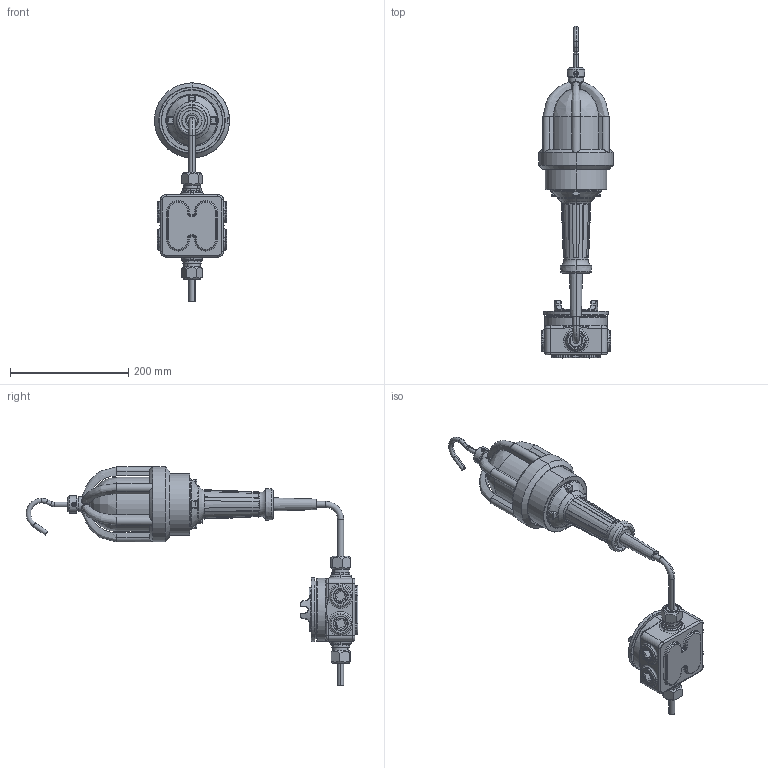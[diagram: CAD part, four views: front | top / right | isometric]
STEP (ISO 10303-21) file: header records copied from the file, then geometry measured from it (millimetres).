
FILE_DESCRIPTION (( 'STEP AP214' ), '1' );
FILE_NAME ('EPL-120V-DW with EXP JBox.STEP', '2016-02-15T17:44:06', ( '' ), ( '' ), 'SwSTEP 2.0', 'SolidWorks 2016', '' );
FILE_SCHEMA (( 'AUTOMOTIVE_DESIGN' ));
Length unit declared in the file: inch
Products named in the file (6): .75 nut; EPL-120V-DW pigtail; .75in CGB; 6 port .75inch junction box; EPL-120V-DW Part_Cord; EPL-120V-DW with EXP JBox
Assembly tree (9 placements, depth 2):
  EPL-120V-DW with EXP JBox
    EPL-120V-DW Part_Cord
    6 port .75inch junction box
    .75in CGB  x2
    EPL-120V-DW pigtail
    .75 nut  x4
Bounding box: 126.87 x 561.31 x 369.15 mm (x, y, z)
Volume: 2047174.9 mm3; surface area: 314481.7 mm2
Topology: 12 solids, 12 shells, 837 faces, 2029 edges, 1219 vertices
Faces by surface type: cylinder 293, plane 224, torus 107, bspline 90, cone 73, sphere 50
Entity records: 33406 total; most frequent: CARTESIAN_POINT 13360, ORIENTED_EDGE 3272, DIRECTION 3263, EDGE_CURVE 1636, AXIS2_PLACEMENT_3D 1380, VERTEX_POINT 989, CIRCLE 766, EDGE_LOOP 733
